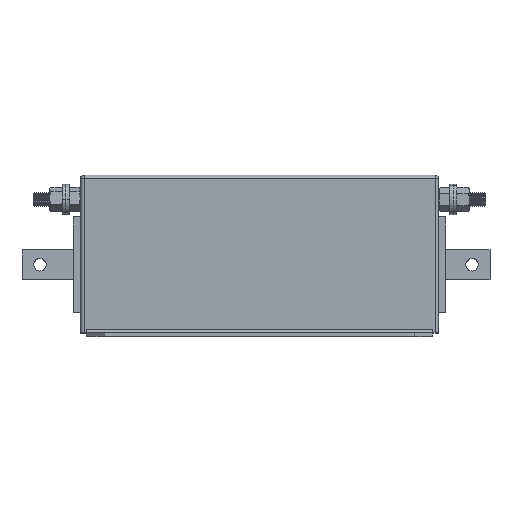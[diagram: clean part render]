
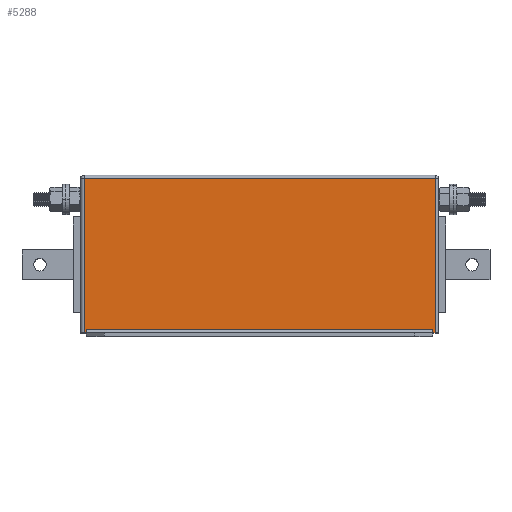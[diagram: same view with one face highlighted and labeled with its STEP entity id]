
A CAD part, top view. The second image highlights one B-rep face of the part: STEP entity #5288.
In plain terms, the highlighted planar face has unit normal (0, 0, 1).
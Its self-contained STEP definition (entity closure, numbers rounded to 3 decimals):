
#12 = VERTEX_POINT ( 'NONE', #3687 ) ;
#86 = ORIENTED_EDGE ( 'NONE', *, *, #241, .T. ) ;
#94 = DIRECTION ( 'NONE',  ( 1., 0., 0. ) ) ;
#166 = DIRECTION ( 'NONE',  ( 0., 1., 0. ) ) ;
#241 = EDGE_CURVE ( 'NONE', #2462, #6731, #8286, .T. ) ;
#256 = LINE ( 'NONE', #4975, #5123 ) ;
#401 = EDGE_CURVE ( 'NONE', #6731, #4302, #1862, .T. ) ;
#695 = FACE_OUTER_BOUND ( 'NONE', #2452, .T. ) ;
#726 = CARTESIAN_POINT ( 'NONE',  ( 297., 0., 0. ) ) ;
#872 = CARTESIAN_POINT ( 'NONE',  ( 295., -3., 0. ) ) ;
#1221 = CARTESIAN_POINT ( 'NONE',  ( 5., -3., 0. ) ) ;
#1292 = VECTOR ( 'NONE', #7790, 1000. ) ;
#1580 = VECTOR ( 'NONE', #94, 1000. ) ;
#1639 = LINE ( 'NONE', #872, #7721 ) ;
#1862 = LINE ( 'NONE', #4070, #1580 ) ;
#1901 = DIRECTION ( 'NONE',  ( -1., 0., 0. ) ) ;
#1947 = ORIENTED_EDGE ( 'NONE', *, *, #6737, .T. ) ;
#1972 = DIRECTION ( 'NONE',  ( 0., 0., -1. ) ) ;
#2124 = DIRECTION ( 'NONE',  ( 1., 0., 0. ) ) ;
#2132 = CARTESIAN_POINT ( 'NONE',  ( 295., 3., 0. ) ) ;
#2178 = CARTESIAN_POINT ( 'NONE',  ( 0., 0., 0. ) ) ;
#2360 = EDGE_CURVE ( 'NONE', #2660, #3229, #4988, .T. ) ;
#2452 = EDGE_LOOP ( 'NONE', ( #4285, #4199, #7380, #1947, #2543, #4567, #8566, #86 ) ) ;
#2462 = VERTEX_POINT ( 'NONE', #7142 ) ;
#2543 = ORIENTED_EDGE ( 'NONE', *, *, #4664, .T. ) ;
#2592 = LINE ( 'NONE', #3326, #8861 ) ;
#2660 = VERTEX_POINT ( 'NONE', #6174 ) ;
#2900 = DIRECTION ( 'NONE',  ( 1., 0., 0. ) ) ;
#2937 = CARTESIAN_POINT ( 'NONE',  ( 5., 3., 0. ) ) ;
#3229 = VERTEX_POINT ( 'NONE', #7914 ) ;
#3326 = CARTESIAN_POINT ( 'NONE',  ( 0., 129., 0. ) ) ;
#3687 = CARTESIAN_POINT ( 'NONE',  ( 295., 0., 0. ) ) ;
#4070 = CARTESIAN_POINT ( 'NONE',  ( 295., 3., 0. ) ) ;
#4096 = PLANE ( 'NONE',  #6945 ) ;
#4199 = ORIENTED_EDGE ( 'NONE', *, *, #4948, .T. ) ;
#4285 = ORIENTED_EDGE ( 'NONE', *, *, #401, .T. ) ;
#4302 = VERTEX_POINT ( 'NONE', #2132 ) ;
#4416 = DIRECTION ( 'NONE',  ( 0., -1., 0. ) ) ;
#4567 = ORIENTED_EDGE ( 'NONE', *, *, #2360, .T. ) ;
#4664 = EDGE_CURVE ( 'NONE', #8089, #2660, #2592, .T. ) ;
#4917 = CARTESIAN_POINT ( 'NONE',  ( 297., 132., 0. ) ) ;
#4948 = EDGE_CURVE ( 'NONE', #4302, #12, #1639, .T. ) ;
#4975 = CARTESIAN_POINT ( 'NONE',  ( 0., 0., 0. ) ) ;
#4988 = LINE ( 'NONE', #8463, #1292 ) ;
#4997 = LINE ( 'NONE', #4917, #7568 ) ;
#5123 = VECTOR ( 'NONE', #2124, 1000. ) ;
#5288 = ADVANCED_FACE ( 'NONE', ( #695 ), #4096, .F. ) ;
#5441 = LINE ( 'NONE', #2178, #8543 ) ;
#5514 = CARTESIAN_POINT ( 'NONE',  ( 0., 132., 0. ) ) ;
#5603 = CARTESIAN_POINT ( 'NONE',  ( 297., 129., 0. ) ) ;
#5805 = EDGE_CURVE ( 'NONE', #12, #7622, #256, .T. ) ;
#5852 = EDGE_CURVE ( 'NONE', #3229, #2462, #5441, .T. ) ;
#6050 = DIRECTION ( 'NONE',  ( 0., 1., 0. ) ) ;
#6174 = CARTESIAN_POINT ( 'NONE',  ( 3., 129., 0. ) ) ;
#6731 = VERTEX_POINT ( 'NONE', #2937 ) ;
#6737 = EDGE_CURVE ( 'NONE', #7622, #8089, #4997, .T. ) ;
#6945 = AXIS2_PLACEMENT_3D ( 'NONE', #5514, #1972, #7619 ) ;
#7142 = CARTESIAN_POINT ( 'NONE',  ( 5., 0., 0. ) ) ;
#7380 = ORIENTED_EDGE ( 'NONE', *, *, #5805, .T. ) ;
#7568 = VECTOR ( 'NONE', #166, 1000. ) ;
#7619 = DIRECTION ( 'NONE',  ( -1., 0., 0. ) ) ;
#7622 = VERTEX_POINT ( 'NONE', #726 ) ;
#7721 = VECTOR ( 'NONE', #4416, 1000. ) ;
#7790 = DIRECTION ( 'NONE',  ( 0., -1., 0. ) ) ;
#7914 = CARTESIAN_POINT ( 'NONE',  ( 3., 0., 0. ) ) ;
#8089 = VERTEX_POINT ( 'NONE', #5603 ) ;
#8286 = LINE ( 'NONE', #1221, #8498 ) ;
#8463 = CARTESIAN_POINT ( 'NONE',  ( 3., 132., 0. ) ) ;
#8498 = VECTOR ( 'NONE', #6050, 1000. ) ;
#8543 = VECTOR ( 'NONE', #2900, 1000. ) ;
#8566 = ORIENTED_EDGE ( 'NONE', *, *, #5852, .T. ) ;
#8861 = VECTOR ( 'NONE', #1901, 1000. ) ;
